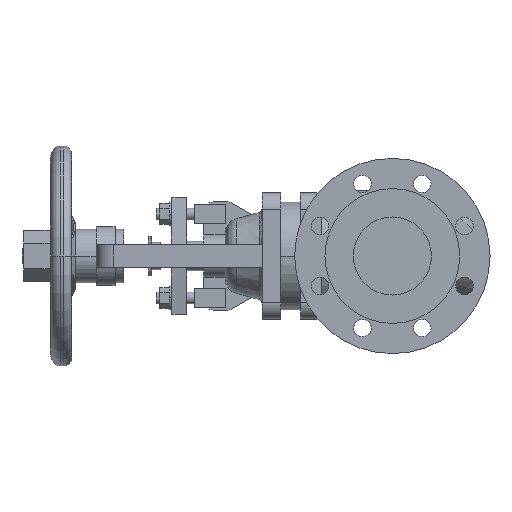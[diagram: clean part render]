
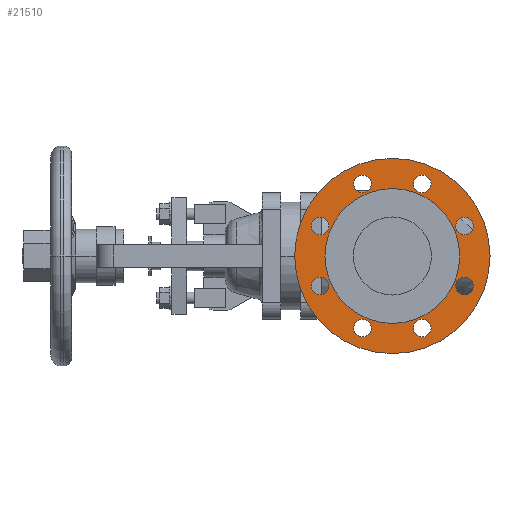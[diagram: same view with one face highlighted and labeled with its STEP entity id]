
A CAD part, left-side view. The second image highlights one B-rep face of the part: STEP entity #21510.
In plain terms, the highlighted planar face has unit normal (-1, 0, 0).
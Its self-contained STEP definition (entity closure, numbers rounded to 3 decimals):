
#10710=CARTESIAN_POINT('',(4.2,0.,-100.));
#10720=VERTEX_POINT('',#10710);
#10750=CARTESIAN_POINT('',(4.2,0.,0.));
#10760=DIRECTION('',(1.,0.,0.));
#10770=DIRECTION('',(0.,0.,-1.));
#10780=AXIS2_PLACEMENT_3D('',#10750,#10760,#10770);
#10790=CIRCLE('',#10780,100.);
#10800=CARTESIAN_POINT('',(4.2,0.,100.))
;
#10810=VERTEX_POINT('',#10800);
#10820=EDGE_CURVE('',#10810,#10720,#10790,.T.);
#11200=CARTESIAN_POINT('',(4.2,30.615,
-82.91));
#11210=VERTEX_POINT('',#11200);
#11240=CARTESIAN_POINT('',(4.2,30.615,
-73.91));
#11250=DIRECTION('',(-1.,0.,0.));
#11260=DIRECTION('',(0.,0.,-1.));
#11270=AXIS2_PLACEMENT_3D('',#11240,#11250,#11260);
#11280=CIRCLE('',#11270,9.);
#11290=CARTESIAN_POINT('',(4.2,30.615,
-64.91));
#11300=VERTEX_POINT('',#11290);
#11310=EDGE_CURVE('',#11300,#11210,#11280,.T.);
#11690=CARTESIAN_POINT('',(4.2,-30.615,
-82.91));
#11700=VERTEX_POINT('',#11690);
#11860=CARTESIAN_POINT('',(4.2,-30.615,
-64.91));
#11870=VERTEX_POINT('',#11860);
#11900=CARTESIAN_POINT('',(4.2,-30.615,
-73.91));
#11910=DIRECTION('',(-1.,0.,0.));
#11920=DIRECTION('',(0.,0.,-1.));
#11930=AXIS2_PLACEMENT_3D('',#11900,#11910,#11920);
#11940=CIRCLE('',#11930,9.);
#11950=EDGE_CURVE('',#11700,#11870,#11940,.T.);
#12180=CARTESIAN_POINT('',(4.2,73.91,
-21.615));
#12190=VERTEX_POINT('',#12180);
#12220=CARTESIAN_POINT('',(4.2,73.91,
-30.615));
#12230=DIRECTION('',(-1.,0.,0.));
#12240=DIRECTION('',(0.,0.,-1.));
#12250=AXIS2_PLACEMENT_3D('',#12220,#12230,#12240);
#12260=CIRCLE('',#12250,9.);
#12270=CARTESIAN_POINT('',(4.2,73.91,
-39.615));
#12280=VERTEX_POINT('',#12270);
#12290=EDGE_CURVE('',#12280,#12190,#12260,.T.);
#12670=CARTESIAN_POINT('',(4.2,-73.91,
-21.615));
#12680=VERTEX_POINT('',#12670);
#12840=CARTESIAN_POINT('',(4.2,-73.91,
-39.615));
#12850=VERTEX_POINT('',#12840);
#12880=CARTESIAN_POINT('',(4.2,-73.91,
-30.615));
#12890=DIRECTION('',(-1.,0.,0.));
#12900=DIRECTION('',(0.,0.,-1.));
#12910=AXIS2_PLACEMENT_3D('',#12880,#12890,#12900);
#12920=CIRCLE('',#12910,9.);
#12930=EDGE_CURVE('',#12680,#12850,#12920,.T.);
#13160=CARTESIAN_POINT('',(4.2,73.91,
39.615));
#13170=VERTEX_POINT('',#13160);
#13200=CARTESIAN_POINT('',(4.2,73.91,
30.615));
#13210=DIRECTION('',(-1.,0.,0.));
#13220=DIRECTION('',(0.,0.,-1.));
#13230=AXIS2_PLACEMENT_3D('',#13200,#13210,#13220);
#13240=CIRCLE('',#13230,9.);
#13250=CARTESIAN_POINT('',(4.2,73.91,
21.615));
#13260=VERTEX_POINT('',#13250);
#13270=EDGE_CURVE('',#13260,#13170,#13240,.T.);
#13650=CARTESIAN_POINT('',(4.2,-73.91,
39.615));
#13660=VERTEX_POINT('',#13650);
#13690=CARTESIAN_POINT('',(4.2,-73.91,
30.615));
#13700=DIRECTION('',(-1.,0.,0.));
#13710=DIRECTION('',(0.,0.,-1.));
#13720=AXIS2_PLACEMENT_3D('',#13690,#13700,#13710);
#13730=CIRCLE('',#13720,9.);
#13740=CARTESIAN_POINT('',(4.2,-73.91,
21.615));
#13750=VERTEX_POINT('',#13740);
#13760=EDGE_CURVE('',#13750,#13660,#13730,.T.);
#14140=CARTESIAN_POINT('',(4.2,30.615,
82.91));
#14150=VERTEX_POINT('',#14140);
#14310=CARTESIAN_POINT('',(4.2,30.615,
64.91));
#14320=VERTEX_POINT('',#14310);
#14350=CARTESIAN_POINT('',(4.2,30.615,
73.91));
#14360=DIRECTION('',(-1.,0.,0.));
#14370=DIRECTION('',(0.,0.,-1.));
#14380=AXIS2_PLACEMENT_3D('',#14350,#14360,#14370);
#14390=CIRCLE('',#14380,9.);
#14400=EDGE_CURVE('',#14150,#14320,#14390,.T.);
#14630=CARTESIAN_POINT('',(4.2,-30.615,
64.91));
#14640=VERTEX_POINT('',#14630);
#14800=CARTESIAN_POINT('',(4.2,-30.615,
82.91));
#14810=VERTEX_POINT('',#14800);
#14840=CARTESIAN_POINT('',(4.2,-30.615,
73.91));
#14850=DIRECTION('',(-1.,0.,0.));
#14860=DIRECTION('',(0.,0.,-1.));
#14870=AXIS2_PLACEMENT_3D('',#14840,#14850,#14860);
#14880=CIRCLE('',#14870,9.);
#14890=EDGE_CURVE('',#14640,#14810,#14880,.T.);
#15120=CARTESIAN_POINT('',(4.2,-69.,0.));
#15130=VERTEX_POINT('',#15120);
#15160=CARTESIAN_POINT('',(4.2,0.,0.));
#15170=DIRECTION('',(-1.,0.,0.));
#15180=DIRECTION('',(0.,1.,0.));
#15190=AXIS2_PLACEMENT_3D('',#15160,#15170,#15180);
#15200=CIRCLE('',#15190,69.);
#15210=CARTESIAN_POINT('',(4.2,69.,0.));
#15220=VERTEX_POINT('',#15210);
#15230=EDGE_CURVE('',#15220,#15130,#15200,.T.);
#20960=CARTESIAN_POINT('',(4.2,84.5,0.))
;
#20970=DIRECTION('',(1.,0.,0.));
#20980=DIRECTION('',(0.,-1.,0.));
#20990=AXIS2_PLACEMENT_3D('',#20960,#20970,#20980);
#21000=PLANE('',#20990);
#21010=ORIENTED_EDGE('',*,*,#15230,.F.);
#21020=EDGE_CURVE('',#15130,#15220,#15200,.T.);
#21030=ORIENTED_EDGE('',*,*,#21020,.F.);
#21040=EDGE_LOOP('',(#21030,#21010));
#21050=FACE_BOUND('',#21040,.T.);
#21060=EDGE_CURVE('',#10720,#10810,#10790,.T.);
#21070=ORIENTED_EDGE('',*,*,#21060,.F.);
#21080=ORIENTED_EDGE('',*,*,#10820,.F.);
#21090=EDGE_LOOP('',(#21080,#21070));
#21100=FACE_OUTER_BOUND('',#21090,.T.);
#21110=EDGE_CURVE('',#11210,#11300,#11280,.T.);
#21120=ORIENTED_EDGE('',*,*,#21110,.F.);
#21130=ORIENTED_EDGE('',*,*,#11310,.F.);
#21140=EDGE_LOOP('',(#21130,#21120));
#21150=FACE_BOUND('',#21140,.T.);
#21160=EDGE_CURVE('',#11870,#11700,#11940,.T.);
#21170=ORIENTED_EDGE('',*,*,#21160,.F.);
#21180=ORIENTED_EDGE('',*,*,#11950,.F.);
#21190=EDGE_LOOP('',(#21180,#21170));
#21200=FACE_BOUND('',#21190,.T.);
#21210=ORIENTED_EDGE('',*,*,#12290,.F.);
#21220=EDGE_CURVE('',#12190,#12280,#12260,.T.);
#21230=ORIENTED_EDGE('',*,*,#21220,.F.);
#21240=EDGE_LOOP('',(#21230,#21210));
#21250=FACE_BOUND('',#21240,.T.);
#21260=EDGE_CURVE('',#12850,#12680,#12920,.T.);
#21270=ORIENTED_EDGE('',*,*,#21260,.F.);
#21280=ORIENTED_EDGE('',*,*,#12930,.F.);
#21290=EDGE_LOOP('',(#21280,#21270));
#21300=FACE_BOUND('',#21290,.T.);
#21310=ORIENTED_EDGE('',*,*,#13270,.F.);
#21320=EDGE_CURVE('',#13170,#13260,#13240,.T.);
#21330=ORIENTED_EDGE('',*,*,#21320,.F.);
#21340=EDGE_LOOP('',(#21330,#21310));
#21350=FACE_BOUND('',#21340,.T.);
#21360=EDGE_CURVE('',#13660,#13750,#13730,.T.);
#21370=ORIENTED_EDGE('',*,*,#21360,.F.);
#21380=ORIENTED_EDGE('',*,*,#13760,.F.);
#21390=EDGE_LOOP('',(#21380,#21370));
#21400=FACE_BOUND('',#21390,.T.);
#21410=EDGE_CURVE('',#14320,#14150,#14390,.T.);
#21420=ORIENTED_EDGE('',*,*,#21410,.F.);
#21430=ORIENTED_EDGE('',*,*,#14400,.F.);
#21440=EDGE_LOOP('',(#21430,#21420));
#21450=FACE_BOUND('',#21440,.T.);
#21460=EDGE_CURVE('',#14810,#14640,#14880,.T.);
#21470=ORIENTED_EDGE('',*,*,#21460,.F.);
#21480=ORIENTED_EDGE('',*,*,#14890,.F.);
#21490=EDGE_LOOP('',(#21480,#21470));
#21500=FACE_BOUND('',#21490,.T.);
#21510=ADVANCED_FACE('',(#21050,#21100,#21150,#21200,#21250,#21300,
#21350,#21400,#21450,#21500),#21000,.F.);
